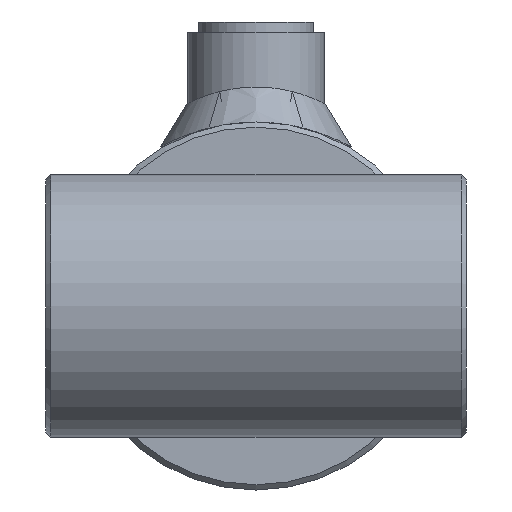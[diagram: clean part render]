
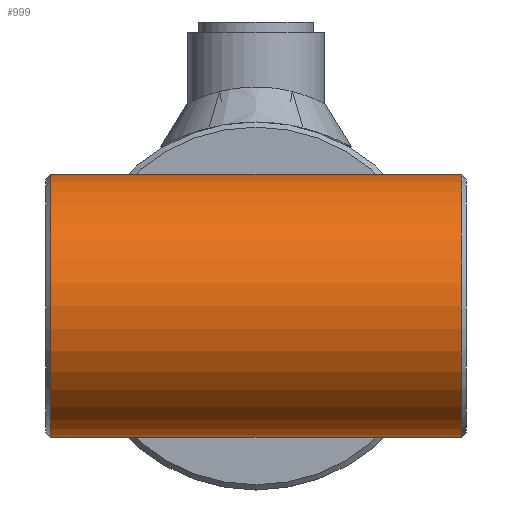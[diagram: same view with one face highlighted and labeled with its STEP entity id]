
A CAD part, left-side view. The second image highlights one B-rep face of the part: STEP entity #999.
In plain terms, the highlighted cylindrical face has radius 25 mm (diameter 50 mm), a full revolution.
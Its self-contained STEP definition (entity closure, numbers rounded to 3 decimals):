
#999 = ADVANCED_FACE( '', ( #1888, #1889 ), #1890, .T. );
#1888 = FACE_OUTER_BOUND( '', #7231, .T. );
#1889 = FACE_OUTER_BOUND( '', #7232, .T. );
#1890 = CYLINDRICAL_SURFACE( '', #7233, 25. );
#7231 = EDGE_LOOP( '', ( #12953 ) );
#7232 = EDGE_LOOP( '', ( #12954 ) );
#7233 = AXIS2_PLACEMENT_3D( '', #12955, #12956, #12957 );
#12953 = ORIENTED_EDGE( '', *, *, #14191, .T. );
#12954 = ORIENTED_EDGE( '', *, *, #14192, .T. );
#12955 = CARTESIAN_POINT( '', ( 0., -40., 0. ) );
#12956 = DIRECTION( '', ( 0., -1., 0. ) );
#12957 = DIRECTION( '', ( 0., 0., 1. ) );
#14191 = EDGE_CURVE( '', #15236, #15236, #15237, .F. );
#14192 = EDGE_CURVE( '', #15238, #15238, #15239, .T. );
#15236 = VERTEX_POINT( '', #18145 );
#15237 = CIRCLE( '', #18146, 25. );
#15238 = VERTEX_POINT( '', #18147 );
#15239 = CIRCLE( '', #18148, 25. );
#18145 = CARTESIAN_POINT( '', ( 0., 39., 25. ) );
#18146 = AXIS2_PLACEMENT_3D( '', #19236, #19237, #19238 );
#18147 = CARTESIAN_POINT( '', ( 0., -39., 25. ) );
#18148 = AXIS2_PLACEMENT_3D( '', #19239, #19240, #19241 );
#19236 = CARTESIAN_POINT( '', ( 0., 39., 0. ) );
#19237 = DIRECTION( '', ( 0., 1., 0. ) );
#19238 = DIRECTION( '', ( 0., 0., 1. ) );
#19239 = CARTESIAN_POINT( '', ( 0., -39., 0. ) );
#19240 = DIRECTION( '', ( 0., 1., 0. ) );
#19241 = DIRECTION( '', ( 0., 0., 1. ) );
